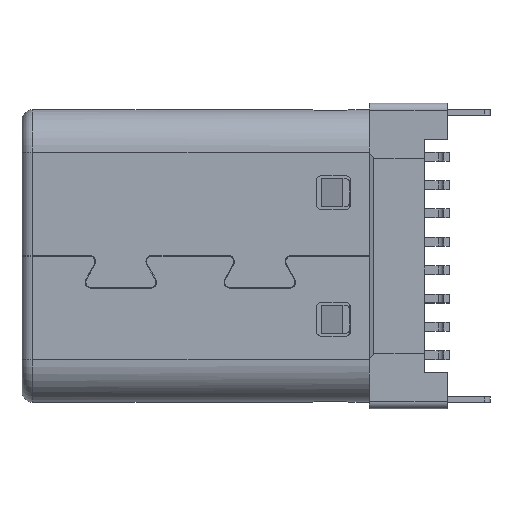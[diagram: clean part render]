
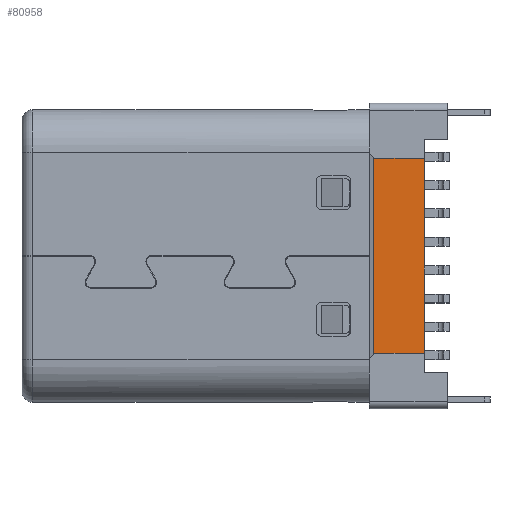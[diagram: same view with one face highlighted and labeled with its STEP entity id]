
A CAD part, top view. The second image highlights one B-rep face of the part: STEP entity #80958.
In plain terms, the highlighted planar face has unit normal (0, 0, 1).
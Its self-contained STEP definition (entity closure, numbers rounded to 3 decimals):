
#1702 = VERTEX_POINT ( 'NONE', #6227 ) ;
#3143 = VECTOR ( 'NONE', #80870, 1000. ) ;
#3337 = EDGE_CURVE ( 'NONE', #69572, #48875, #17302, .T. ) ;
#5786 = LINE ( 'NONE', #55743, #14825 ) ;
#6227 = CARTESIAN_POINT ( 'NONE',  ( 9.914, 7.116, -0.14 ) ) ;
#6626 = VECTOR ( 'NONE', #34510, 1000. ) ;
#12604 = ORIENTED_EDGE ( 'NONE', *, *, #34823, .T. ) ;
#13690 = EDGE_CURVE ( 'NONE', #1702, #70758, #31133, .T. ) ;
#14825 = VECTOR ( 'NONE', #67724, 1000. ) ;
#14972 = EDGE_CURVE ( 'NONE', #69572, #45607, #5786, .T. ) ;
#15472 = CARTESIAN_POINT ( 'NONE',  ( 11.35, 1.58, -0.14 ) ) ;
#15886 = DIRECTION ( 'NONE',  ( 0., -1., 0. ) ) ;
#16373 = EDGE_CURVE ( 'NONE', #45607, #70341, #59484, .T. ) ;
#17302 = LINE ( 'NONE', #67685, #3143 ) ;
#17340 = AXIS2_PLACEMENT_3D ( 'NONE', #79029, #72443, #15886 ) ;
#19632 = LINE ( 'NONE', #45642, #52518 ) ;
#22088 = FACE_OUTER_BOUND ( 'NONE', #28967, .T. ) ;
#25287 = EDGE_CURVE ( 'NONE', #70341, #70758, #40332, .T. ) ;
#25424 = ORIENTED_EDGE ( 'NONE', *, *, #3337, .F. ) ;
#26068 = ORIENTED_EDGE ( 'NONE', *, *, #14972, .T. ) ;
#28113 = CARTESIAN_POINT ( 'NONE',  ( 11.35, 1.58, -0.14 ) ) ;
#28967 = EDGE_LOOP ( 'NONE', ( #75074, #40924, #12604, #25424, #26068, #54502 ) ) ;
#29643 = CARTESIAN_POINT ( 'NONE',  ( 9.914, 1.544, -0.14 ) ) ;
#31133 = LINE ( 'NONE', #56327, #42560 ) ;
#34510 = DIRECTION ( 'NONE',  ( -1., 0., 0. ) ) ;
#34823 = EDGE_CURVE ( 'NONE', #1702, #48875, #19632, .T. ) ;
#40332 = LINE ( 'NONE', #76670, #6626 ) ;
#40656 = CARTESIAN_POINT ( 'NONE',  ( 9.95, 7.08, -0.14 ) ) ;
#40924 = ORIENTED_EDGE ( 'NONE', *, *, #13690, .F. ) ;
#41036 = VECTOR ( 'NONE', #53314, 1000. ) ;
#42560 = VECTOR ( 'NONE', #81481, 1000. ) ;
#45607 = VERTEX_POINT ( 'NONE', #15472 ) ;
#45642 = CARTESIAN_POINT ( 'NONE',  ( 9.914, 7.116, -0.14 ) ) ;
#46443 = DIRECTION ( 'NONE',  ( 0., -1., 0. ) ) ;
#48875 = VERTEX_POINT ( 'NONE', #29643 ) ;
#52518 = VECTOR ( 'NONE', #46443, 1000. ) ;
#53314 = DIRECTION ( 'NONE',  ( 0., 1., 0. ) ) ;
#54502 = ORIENTED_EDGE ( 'NONE', *, *, #16373, .T. ) ;
#55743 = CARTESIAN_POINT ( 'NONE',  ( 9.95, 1.58, -0.14 ) ) ;
#56327 = CARTESIAN_POINT ( 'NONE',  ( 9.914, 7.116, -0.14 ) ) ;
#59484 = LINE ( 'NONE', #28113, #41036 ) ;
#67685 = CARTESIAN_POINT ( 'NONE',  ( 9.95, 1.58, -0.14 ) ) ;
#67724 = DIRECTION ( 'NONE',  ( 1., 0., 0. ) ) ;
#69572 = VERTEX_POINT ( 'NONE', #75011 ) ;
#70341 = VERTEX_POINT ( 'NONE', #77926 ) ;
#70758 = VERTEX_POINT ( 'NONE', #40656 ) ;
#72443 = DIRECTION ( 'NONE',  ( 0., 0., -1. ) ) ;
#73267 = PLANE ( 'NONE',  #17340 ) ;
#75011 = CARTESIAN_POINT ( 'NONE',  ( 9.95, 1.58, -0.14 ) ) ;
#75074 = ORIENTED_EDGE ( 'NONE', *, *, #25287, .T. ) ;
#76670 = CARTESIAN_POINT ( 'NONE',  ( 11.35, 7.08, -0.14 ) ) ;
#77926 = CARTESIAN_POINT ( 'NONE',  ( 11.35, 7.08, -0.14 ) ) ;
#79029 = CARTESIAN_POINT ( 'NONE',  ( 10.58, 44.33, -0.14 ) ) ;
#80870 = DIRECTION ( 'NONE',  ( -0.707, -0.707, 0. ) ) ;
#80958 = ADVANCED_FACE ( 'NONE', ( #22088 ), #73267, .F. ) ;
#81481 = DIRECTION ( 'NONE',  ( 0.707, -0.707, 0. ) ) ;
